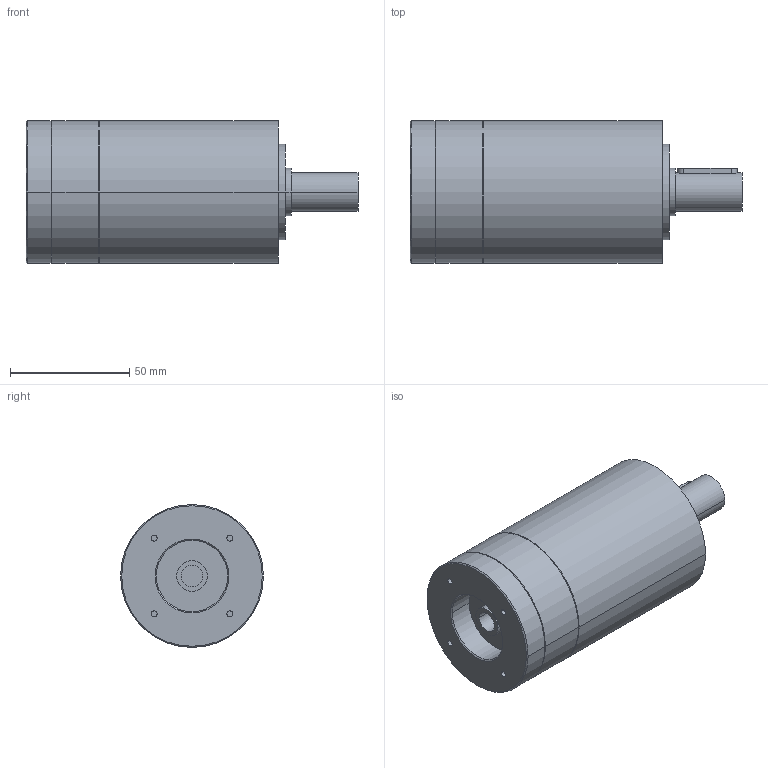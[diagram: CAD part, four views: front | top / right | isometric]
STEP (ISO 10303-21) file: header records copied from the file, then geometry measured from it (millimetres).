
FILE_DESCRIPTION(('CoCreate Modeling STEP Export'),'2;1');
FILE_NAME('GPR75_ig-9-12-16-20-24-30-36_16_B14_9_P29.stp','2014-08-25T16:07:40',(''),(''),'CoCreate Modeling STEP processor for AP214 (Solid Model)','CoCreate Modeling 16.00C 25-Feb-2009 (C) Parametric Technology GmbH','');
FILE_SCHEMA(('AUTOMOTIVE_DESIGN { 1 0 10303 214 1 1 1 1 }'));
Length unit declared in the file: millimetre
Products named in the file (2): GPR75_ig-9-12-16-20-24-30-36_16_B14_9_P29
Assembly tree (1 placements, depth 2):
  GPR75_ig-9-12-16-20-24-30-36_16_B14_9_P29
    GPR75_ig-9-12-16-20-24-30-36_16_B14_9_P29
Bounding box: 139.4 x 60 x 60 mm (x, y, z)
Volume: 300569.7 mm3; surface area: 30618.9 mm2
Topology: 1 solids, 1 shells, 69 faces, 173 edges, 121 vertices
Faces by surface type: cylinder 38, plane 21, cone 10
Entity records: 1751 total; most frequent: ORIENTED_EDGE 342, CARTESIAN_POINT 325, DIRECTION 226, EDGE_CURVE 171, VERTEX_POINT 121, AXIS2_PLACEMENT_3D 86, EDGE_LOOP 86, FACE_OUTER_BOUND 69
